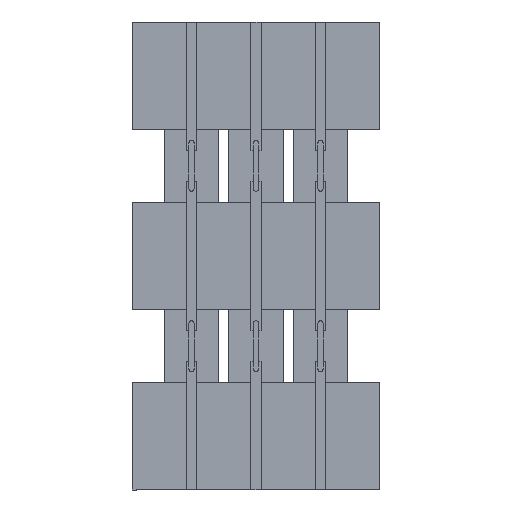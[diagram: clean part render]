
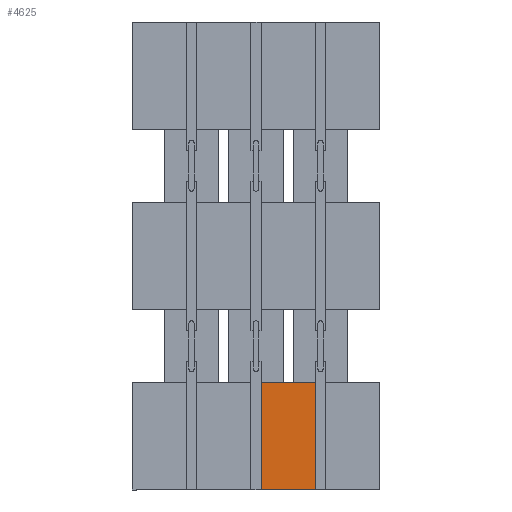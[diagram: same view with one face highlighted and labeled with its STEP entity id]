
A CAD part, front view. The second image highlights one B-rep face of the part: STEP entity #4625.
In plain terms, the highlighted planar face has unit normal (0, -1, 0).
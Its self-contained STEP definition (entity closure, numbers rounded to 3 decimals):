
#260 = VECTOR ( 'NONE', #3952, 1000. ) ;
#557 = CARTESIAN_POINT ( 'NONE',  ( 118., 0., -464.5 ) ) ;
#616 = CARTESIAN_POINT ( 'NONE',  ( 74., 0., -251.5 ) ) ;
#731 = VERTEX_POINT ( 'NONE', #7441 ) ;
#882 = ORIENTED_EDGE ( 'NONE', *, *, #2684, .F. ) ;
#974 = EDGE_CURVE ( 'NONE', #6835, #4146, #8697, .T. ) ;
#1044 = ORIENTED_EDGE ( 'NONE', *, *, #5633, .F. ) ;
#1107 = VECTOR ( 'NONE', #8654, 1000. ) ;
#1121 = CARTESIAN_POINT ( 'NONE',  ( 74., 0., -251.5 ) ) ;
#1262 = LINE ( 'NONE', #557, #260 ) ;
#1331 = FACE_OUTER_BOUND ( 'NONE', #3612, .T. ) ;
#1333 = ORIENTED_EDGE ( 'NONE', *, *, #4032, .F. ) ;
#1380 = LINE ( 'NONE', #2791, #5736 ) ;
#1809 = CARTESIAN_POINT ( 'NONE',  ( 118., 0., -251.5 ) ) ;
#2025 = ORIENTED_EDGE ( 'NONE', *, *, #4000, .F. ) ;
#2120 = DIRECTION ( 'NONE',  ( 0., 1., 0. ) ) ;
#2684 = EDGE_CURVE ( 'NONE', #6592, #4146, #1380, .T. ) ;
#2709 = CARTESIAN_POINT ( 'NONE',  ( 54., 0., -251.5 ) ) ;
#2791 = CARTESIAN_POINT ( 'NONE',  ( -54., 0., -251.5 ) ) ;
#3290 = LINE ( 'NONE', #7903, #1107 ) ;
#3612 = EDGE_LOOP ( 'NONE', ( #1044, #4085, #882, #1333, #2025, #6559 ) ) ;
#3646 = CARTESIAN_POINT ( 'NONE',  ( 118., 0., -464.5 ) ) ;
#3779 = CARTESIAN_POINT ( 'NONE',  ( 118., 0., -464.5 ) ) ;
#3944 = VERTEX_POINT ( 'NONE', #3646 ) ;
#3952 = DIRECTION ( 'NONE',  ( -1., 0., 0. ) ) ;
#4000 = EDGE_CURVE ( 'NONE', #3944, #731, #1262, .T. ) ;
#4022 = CARTESIAN_POINT ( 'NONE',  ( 118., 0., -464.5 ) ) ;
#4032 = EDGE_CURVE ( 'NONE', #731, #6592, #3290, .T. ) ;
#4062 = VECTOR ( 'NONE', #5931, 1000. ) ;
#4085 = ORIENTED_EDGE ( 'NONE', *, *, #974, .T. ) ;
#4146 = VERTEX_POINT ( 'NONE', #2709 ) ;
#4160 = DIRECTION ( 'NONE',  ( 1., 0., 0. ) ) ;
#4625 = ADVANCED_FACE ( 'NONE', ( #1331 ), #4732, .F. ) ;
#4732 = PLANE ( 'NONE',  #5030 ) ;
#5030 = AXIS2_PLACEMENT_3D ( 'NONE', #4022, #2120, #7435 ) ;
#5281 = DIRECTION ( 'NONE',  ( -1., 0., 0. ) ) ;
#5500 = VECTOR ( 'NONE', #6477, 1000. ) ;
#5633 = EDGE_CURVE ( 'NONE', #6835, #7465, #7176, .T. ) ;
#5736 = VECTOR ( 'NONE', #4160, 1000. ) ;
#5906 = CARTESIAN_POINT ( 'NONE',  ( 118., 0., -251.5 ) ) ;
#5931 = DIRECTION ( 'NONE',  ( 1., 0., 0. ) ) ;
#6477 = DIRECTION ( 'NONE',  ( 0., 0., 1. ) ) ;
#6559 = ORIENTED_EDGE ( 'NONE', *, *, #7319, .T. ) ;
#6592 = VERTEX_POINT ( 'NONE', #6939 ) ;
#6835 = VERTEX_POINT ( 'NONE', #616 ) ;
#6939 = CARTESIAN_POINT ( 'NONE',  ( 10., 0., -251.5 ) ) ;
#7176 = LINE ( 'NONE', #1121, #4062 ) ;
#7319 = EDGE_CURVE ( 'NONE', #3944, #7465, #7811, .T. ) ;
#7435 = DIRECTION ( 'NONE',  ( 0., 0., -1. ) ) ;
#7441 = CARTESIAN_POINT ( 'NONE',  ( 10., 0., -464.5 ) ) ;
#7465 = VERTEX_POINT ( 'NONE', #1809 ) ;
#7811 = LINE ( 'NONE', #3779, #5500 ) ;
#7826 = VECTOR ( 'NONE', #5281, 1000. ) ;
#7903 = CARTESIAN_POINT ( 'NONE',  ( 10., 0., -464.5 ) ) ;
#8654 = DIRECTION ( 'NONE',  ( 0., 0., 1. ) ) ;
#8697 = LINE ( 'NONE', #5906, #7826 ) ;
